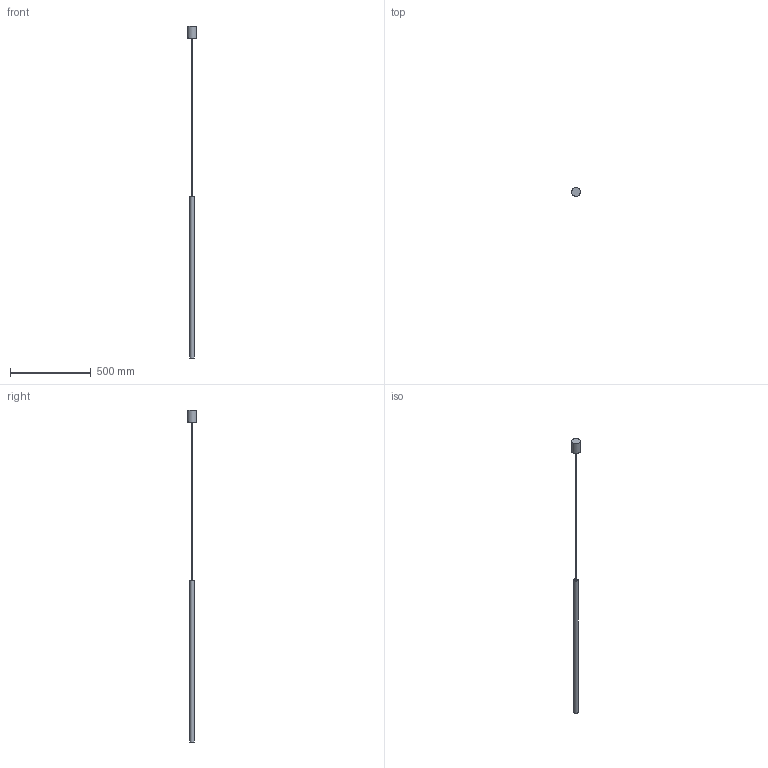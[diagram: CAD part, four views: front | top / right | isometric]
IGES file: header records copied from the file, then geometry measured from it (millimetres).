
Start section: SolidWorks IGES file using analytic representation for surfaces
Global section: file name: X:\PRODUKT\Modele 3D_WWW\_KOLEKCJE WWW\LASER\8436\LASER-1000-8436.IGS; native system: SolidWorks 2021; preprocessor: SolidWorks 2021; author: gabriela.tworek; date: 221021.111342; units: millimetre
Bounding box: 54.89 x 54.89 x 2049.52 mm (x, y, z)
Surface area: 193869.1 mm2 (no closed solid volume)
Topology: 0 solids, 0 shells, 14 faces, 31 edges, 25 vertices
Faces by surface type: bspline 8, revolution 6
